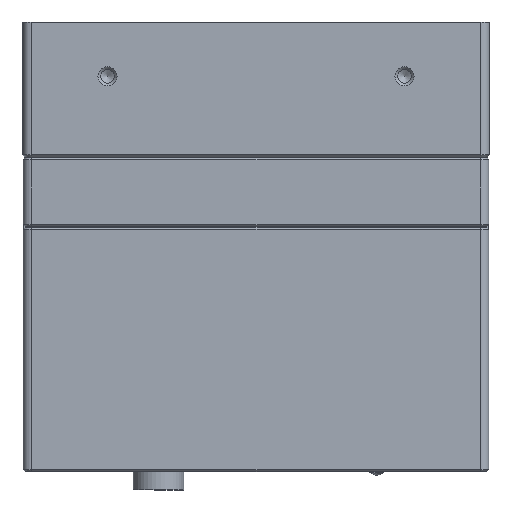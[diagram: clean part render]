
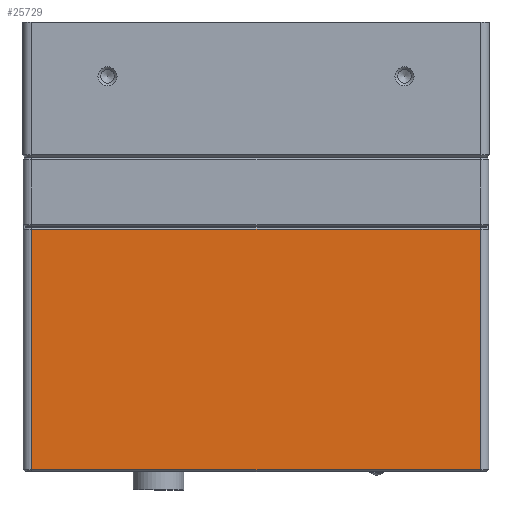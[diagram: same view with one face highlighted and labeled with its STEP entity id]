
A CAD part, left-side view. The second image highlights one B-rep face of the part: STEP entity #25729.
In plain terms, the highlighted planar face has unit normal (-1, 0, 0).
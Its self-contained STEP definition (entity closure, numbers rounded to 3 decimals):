
#2746=FACE_OUTER_BOUND('',#4139,.T.);
#4139=EDGE_LOOP('',(#18052,#18053,#18054,#18055));
#6005=LINE('',#38578,#8240);
#6006=LINE('',#38580,#8241);
#6007=LINE('',#38582,#8242);
#6008=LINE('',#38583,#8243);
#8240=VECTOR('',#30772,10.);
#8241=VECTOR('',#30773,10.);
#8242=VECTOR('',#30774,10.);
#8243=VECTOR('',#30775,10.);
#10539=VERTEX_POINT('',#38576);
#10540=VERTEX_POINT('',#38577);
#10541=VERTEX_POINT('',#38579);
#10542=VERTEX_POINT('',#38581);
#13374=EDGE_CURVE('',#10539,#10540,#6005,.T.);
#13375=EDGE_CURVE('',#10541,#10539,#6006,.T.);
#13376=EDGE_CURVE('',#10542,#10541,#6007,.T.);
#13377=EDGE_CURVE('',#10540,#10542,#6008,.T.);
#18052=ORIENTED_EDGE('',*,*,#13374,.F.);
#18053=ORIENTED_EDGE('',*,*,#13375,.F.);
#18054=ORIENTED_EDGE('',*,*,#13376,.F.);
#18055=ORIENTED_EDGE('',*,*,#13377,.F.);
#23561=PLANE('',#27291);
#25729=ADVANCED_FACE('',(#2746),#23561,.T.);
#27291=AXIS2_PLACEMENT_3D('',#38575,#30770,#30771);
#30770=DIRECTION('center_axis',(-1.,0.,0.));
#30771=DIRECTION('ref_axis',(0.,1.,0.));
#30772=DIRECTION('',(0.,-1.,0.));
#30773=DIRECTION('',(0.,0.,1.));
#30774=DIRECTION('',(0.,1.,0.));
#30775=DIRECTION('',(0.,0.,-1.));
#38575=CARTESIAN_POINT('Origin',(-54.9,-54.9,-42.53));
#38576=CARTESIAN_POINT('',(-54.9,52.9,-43.03));
#38577=CARTESIAN_POINT('',(-54.9,-52.9,-43.03));
#38578=CARTESIAN_POINT('',(-54.9,-27.45,-43.03));
#38579=CARTESIAN_POINT('',(-54.9,52.9,-99.7));
#38580=CARTESIAN_POINT('',(-54.9,52.9,-42.53));
#38581=CARTESIAN_POINT('',(-54.9,-52.9,-99.7));
#38582=CARTESIAN_POINT('',(-54.9,-27.45,-99.7));
#38583=CARTESIAN_POINT('',(-54.9,-52.9,-42.53));
